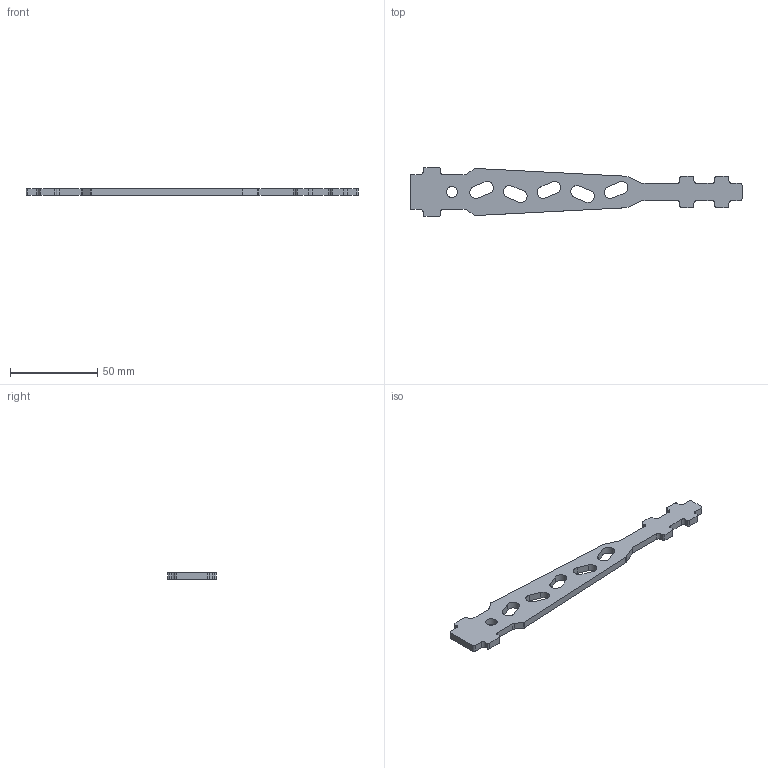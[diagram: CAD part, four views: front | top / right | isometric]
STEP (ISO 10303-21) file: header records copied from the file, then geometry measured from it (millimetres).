
FILE_DESCRIPTION(('FreeCAD Model'),'2;1');
FILE_NAME('Open CASCADE Shape Model','2026-10-17T00:49:22',(''),(''), 'Open CASCADE STEP processor 7.8','FreeCAD','Unknown');
FILE_SCHEMA(('AUTOMOTIVE_DESIGN { 1 0 10303 214 1 1 1 1 }'));
Length unit declared in the file: millimetre
Products named in the file (1): 03 Bras long
Bounding box: 190 x 28 x 4 mm (x, y, z)
Volume: 12606.4 mm3; surface area: 8892.2 mm2
Topology: 1 solids, 1 shells, 95 faces, 279 edges, 186 vertices
Faces by surface type: plane 48, cylinder 47
Full cylindrical faces by diameter (mm): 6.5 x1
Entity records: 3221 total; most frequent: DIRECTION 565, CARTESIAN_POINT 561, ORIENTED_EDGE 558, EDGE_CURVE 279, AXIS2_PLACEMENT_3D 190, VERTEX_POINT 186, LINE 185, VECTOR 185
